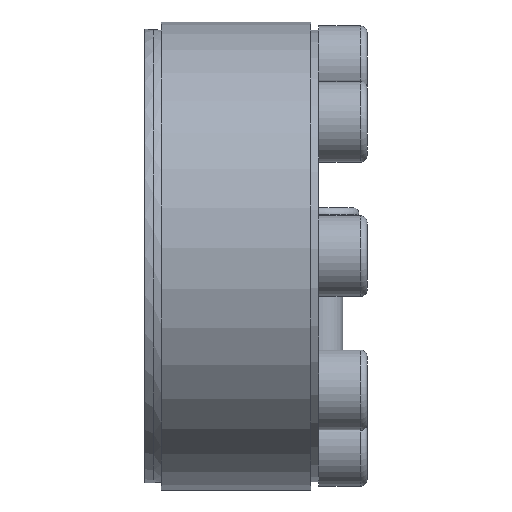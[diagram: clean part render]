
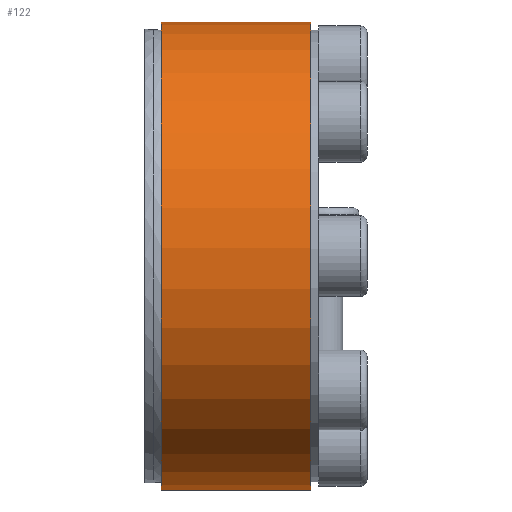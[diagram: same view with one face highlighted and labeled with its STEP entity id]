
A CAD part, left-side view. The second image highlights one B-rep face of the part: STEP entity #122.
In plain terms, the highlighted cylindrical face has radius 29 mm (diameter 58 mm), a partial arc.
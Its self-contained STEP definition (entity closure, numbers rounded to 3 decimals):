
#122 = ADVANCED_FACE( '', ( #262 ), #263, .T. );
#262 = FACE_OUTER_BOUND( '', #404, .T. );
#263 = CYLINDRICAL_SURFACE( '', #405, 29. );
#404 = EDGE_LOOP( '', ( #688, #689, #690, #691 ) );
#405 = AXIS2_PLACEMENT_3D( '', #692, #693, #694 );
#688 = ORIENTED_EDGE( '', *, *, #817, .F. );
#689 = ORIENTED_EDGE( '', *, *, #839, .T. );
#690 = ORIENTED_EDGE( '', *, *, #848, .T. );
#691 = ORIENTED_EDGE( '', *, *, #808, .F. );
#692 = CARTESIAN_POINT( '', ( 0., -60., 0. ) );
#693 = DIRECTION( '', ( 0., 1., 0. ) );
#694 = DIRECTION( '', ( 0., 0., -1. ) );
#808 = EDGE_CURVE( '', #992, #994, #995, .T. );
#817 = EDGE_CURVE( '', #1009, #992, #1010, .T. );
#839 = EDGE_CURVE( '', #1009, #1036, #1037, .T. );
#848 = EDGE_CURVE( '', #1036, #994, #1047, .T. );
#992 = VERTEX_POINT( '', #1291 );
#994 = VERTEX_POINT( '', #1294 );
#995 = CIRCLE( '', #1295, 29. );
#1009 = VERTEX_POINT( '', #1315 );
#1010 = LINE( '', #1316, #1317 );
#1036 = VERTEX_POINT( '', #1352 );
#1037 = CIRCLE( '', #1353, 29. );
#1047 = LINE( '', #1366, #1367 );
#1291 = CARTESIAN_POINT( '', ( 10.401, 1., 27.071 ) );
#1294 = CARTESIAN_POINT( '', ( 11.787, 1., 26.497 ) );
#1295 = AXIS2_PLACEMENT_3D( '', #1487, #1488, #1489 );
#1315 = CARTESIAN_POINT( '', ( 10.401, 19.5, 27.071 ) );
#1316 = CARTESIAN_POINT( '', ( 10.401, -60., 27.071 ) );
#1317 = VECTOR( '', #1496, 1000. );
#1352 = CARTESIAN_POINT( '', ( 11.787, 19.5, 26.497 ) );
#1353 = AXIS2_PLACEMENT_3D( '', #1515, #1516, #1517 );
#1366 = CARTESIAN_POINT( '', ( 11.787, -60., 26.497 ) );
#1367 = VECTOR( '', #1527, 1000. );
#1487 = CARTESIAN_POINT( '', ( 0., 1., 0. ) );
#1488 = DIRECTION( '', ( 0., -1., 0. ) );
#1489 = DIRECTION( '', ( 0., 0., -1. ) );
#1496 = DIRECTION( '', ( 0., -1., 0. ) );
#1515 = CARTESIAN_POINT( '', ( 0., 19.5, 0. ) );
#1516 = DIRECTION( '', ( 0., -1., 0. ) );
#1517 = DIRECTION( '', ( 0., 0., -1. ) );
#1527 = DIRECTION( '', ( 0., -1., 0. ) );
